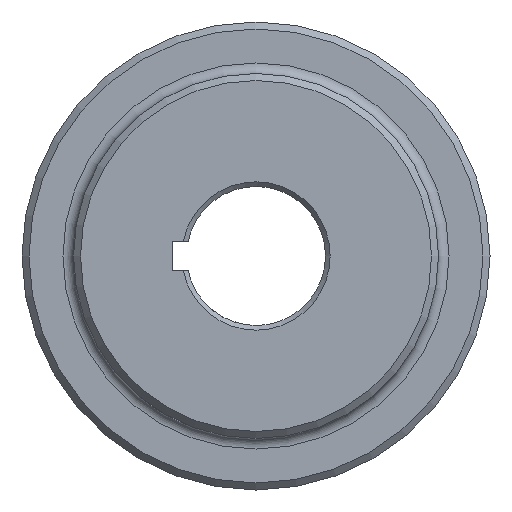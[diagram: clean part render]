
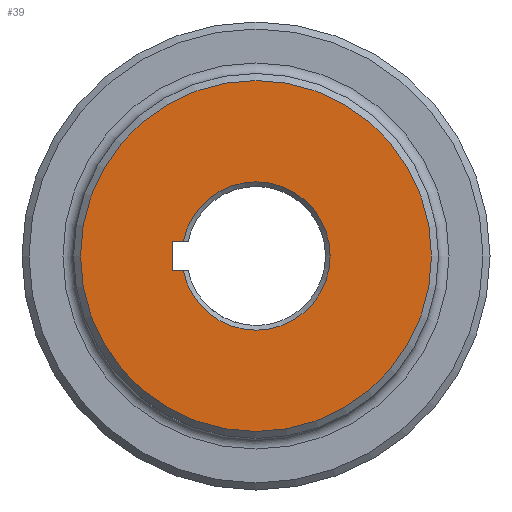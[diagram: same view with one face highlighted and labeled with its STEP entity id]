
A CAD part, left-side view. The second image highlights one B-rep face of the part: STEP entity #39.
In plain terms, the highlighted planar face has unit normal (-1, 0, 0).
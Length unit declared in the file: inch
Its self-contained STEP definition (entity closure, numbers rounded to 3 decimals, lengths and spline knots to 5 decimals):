
#9 = VECTOR ( 'NONE', #1099, 39.37008 ) ;
#11 = CIRCLE ( 'NONE', #1214, 0.634 ) ;
#18 = DIRECTION ( 'NONE',  ( 0., 0., -1. ) ) ;
#39 = ADVANCED_FACE ( 'NONE', ( #1027, #848 ), #1067, .F. ) ;
#59 = CARTESIAN_POINT ( 'NONE',  ( 0., 0., 0. ) ) ;
#118 = LINE ( 'NONE', #2144, #9 ) ;
#126 = CARTESIAN_POINT ( 'NONE',  ( 0., 0.62156, 0.125 ) ) ;
#139 = CARTESIAN_POINT ( 'NONE',  ( 0., 0.711, 0.125 ) ) ;
#146 = VECTOR ( 'NONE', #1380, 39.37008 ) ;
#154 = EDGE_CURVE ( 'NONE', #1937, #597, #11, .T. ) ;
#295 = ORIENTED_EDGE ( 'NONE', *, *, #902, .T. ) ;
#529 = LINE ( 'NONE', #1814, #146 ) ;
#585 = DIRECTION ( 'NONE',  ( 1., 0., 0. ) ) ;
#597 = VERTEX_POINT ( 'NONE', #598 ) ;
#598 = CARTESIAN_POINT ( 'NONE',  ( 0., 0.62156, -0.125 ) ) ;
#605 = CARTESIAN_POINT ( 'NONE',  ( 0., 0., 0. ) ) ;
#610 = ORIENTED_EDGE ( 'NONE', *, *, #1530, .F. ) ;
#616 = CARTESIAN_POINT ( 'NONE',  ( 0., 0., -1.5 ) ) ;
#848 = FACE_BOUND ( 'NONE', #2202, .T. ) ;
#876 = CIRCLE ( 'NONE', #1390, 1.5 ) ;
#884 = CARTESIAN_POINT ( 'NONE',  ( 0., 0., 0. ) ) ;
#895 = CARTESIAN_POINT ( 'NONE',  ( 0., 0.711, -0.125 ) ) ;
#902 = EDGE_CURVE ( 'NONE', #1891, #1891, #876, .T. ) ;
#987 = VERTEX_POINT ( 'NONE', #139 ) ;
#1006 = AXIS2_PLACEMENT_3D ( 'NONE', #884, #585, #18 ) ;
#1027 = FACE_OUTER_BOUND ( 'NONE', #1880, .T. ) ;
#1039 = EDGE_CURVE ( 'NONE', #987, #1593, #1943, .T. ) ;
#1067 = PLANE ( 'NONE',  #1006 ) ;
#1099 = DIRECTION ( 'NONE',  ( 0., -1., 0. ) ) ;
#1214 = AXIS2_PLACEMENT_3D ( 'NONE', #59, #1755, #1323 ) ;
#1267 = DIRECTION ( 'NONE',  ( 0., 0., -1. ) ) ;
#1323 = DIRECTION ( 'NONE',  ( 0., 0., -1. ) ) ;
#1331 = ORIENTED_EDGE ( 'NONE', *, *, #154, .T. ) ;
#1380 = DIRECTION ( 'NONE',  ( 0., 1., 0. ) ) ;
#1384 = ORIENTED_EDGE ( 'NONE', *, *, #1039, .F. ) ;
#1390 = AXIS2_PLACEMENT_3D ( 'NONE', #605, #1975, #1267 ) ;
#1486 = CARTESIAN_POINT ( 'NONE',  ( 0., 0.711, -0.125 ) ) ;
#1530 = EDGE_CURVE ( 'NONE', #1593, #597, #118, .T. ) ;
#1566 = EDGE_CURVE ( 'NONE', #1937, #987, #529, .T. ) ;
#1593 = VERTEX_POINT ( 'NONE', #1486 ) ;
#1755 = DIRECTION ( 'NONE',  ( 1., 0., 0. ) ) ;
#1814 = CARTESIAN_POINT ( 'NONE',  ( 0., 0., 0.125 ) ) ;
#1880 = EDGE_LOOP ( 'NONE', ( #295 ) ) ;
#1891 = VERTEX_POINT ( 'NONE', #616 ) ;
#1913 = DIRECTION ( 'NONE',  ( 0., 0., -1. ) ) ;
#1917 = VECTOR ( 'NONE', #1913, 39.37008 ) ;
#1937 = VERTEX_POINT ( 'NONE', #126 ) ;
#1943 = LINE ( 'NONE', #895, #1917 ) ;
#1975 = DIRECTION ( 'NONE',  ( -1., 0., 0. ) ) ;
#2006 = ORIENTED_EDGE ( 'NONE', *, *, #1566, .F. ) ;
#2144 = CARTESIAN_POINT ( 'NONE',  ( 0., 0., -0.125 ) ) ;
#2202 = EDGE_LOOP ( 'NONE', ( #2006, #1331, #610, #1384 ) ) ;
